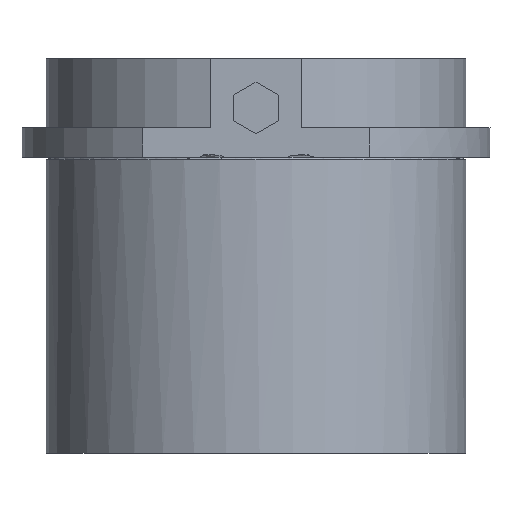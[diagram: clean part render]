
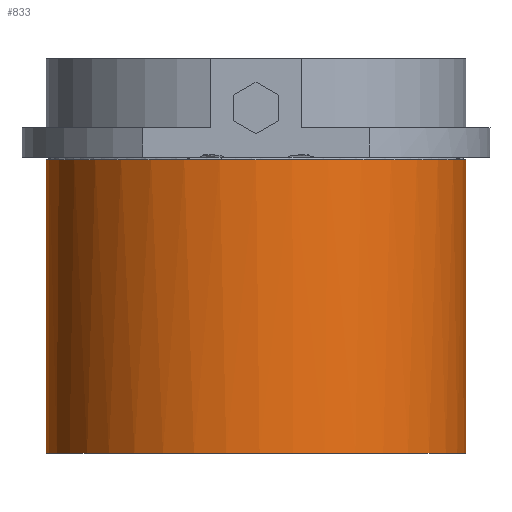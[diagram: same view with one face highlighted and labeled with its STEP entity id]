
A CAD part, front view. The second image highlights one B-rep face of the part: STEP entity #833.
In plain terms, the highlighted cylindrical face has radius 42.5 mm (diameter 85 mm), a partial arc.
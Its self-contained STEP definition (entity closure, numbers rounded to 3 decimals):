
#465=CARTESIAN_POINT('Control Point',(-42.5,0.,-60.)) ;
#466=CARTESIAN_POINT('Control Point',(-42.5,-4.152,-60.)) ;
#467=CARTESIAN_POINT('Control Point',(-41.993,-8.304,-60.)) ;
#468=CARTESIAN_POINT('Control Point',(-40.979,-12.373,-60.)) ;
#469=CARTESIAN_POINT('Control Point',(-37.978,-20.182,-60.)) ;
#470=CARTESIAN_POINT('Control Point',(-33.186,-27.038,-60.)) ;
#471=CARTESIAN_POINT('Control Point',(-30.381,-30.156,-60.)) ;
#472=CARTESIAN_POINT('Control Point',(-24.066,-35.643,-60.)) ;
#473=CARTESIAN_POINT('Control Point',(-16.617,-39.449,-60.)) ;
#474=CARTESIAN_POINT('Control Point',(-12.677,-40.886,-60.)) ;
#475=CARTESIAN_POINT('Control Point',(-4.526,-42.768,-60.)) ;
#476=CARTESIAN_POINT('Control Point',(3.838,-42.634,-60.)) ;
#477=CARTESIAN_POINT('Control Point',(7.992,-42.053,-60.)) ;
#478=CARTESIAN_POINT('Control Point',(16.073,-39.891,-60.)) ;
#479=CARTESIAN_POINT('Control Point',(23.396,-35.847,-60.)) ;
#480=CARTESIAN_POINT('Control Point',(26.791,-33.385,-60.)) ;
#481=CARTESIAN_POINT('Control Point',(32.912,-27.683,-60.)) ;
#482=CARTESIAN_POINT('Control Point',(37.481,-20.676,-60.)) ;
#483=CARTESIAN_POINT('Control Point',(39.325,-16.909,-60.)) ;
#484=CARTESIAN_POINT('Control Point',(41.279,-11.248,-60.)) ;
#485=CARTESIAN_POINT('Control Point',(42.217,-5.37,-60.)) ;
#486=CARTESIAN_POINT('Control Point',(42.406,-3.585,-60.)) ;
#487=CARTESIAN_POINT('Control Point',(42.5,-1.792,-60.)) ;
#488=CARTESIAN_POINT('Control Point',(42.5,0.,-60.)) ;
#489=CARTESIAN_POINT('Vertex',(-42.5,0.,-60.)) ;
#491=CARTESIAN_POINT('Vertex',(42.5,0.,-60.)) ;
#803=CARTESIAN_POINT('Axis2P3D Location',(0.,0.,20.)) ;
#808=CARTESIAN_POINT('Line Origine',(42.5,0.,20.)) ;
#812=CARTESIAN_POINT('Vertex',(42.5,0.,-0.5)) ;
#815=CARTESIAN_POINT('Axis2P3D Location',(0.,0.,-0.5)) ;
#819=CARTESIAN_POINT('Vertex',(-42.5,0.,-0.5)) ;
#822=CARTESIAN_POINT('Line Origine',(-42.5,0.,20.)) ;
#804=DIRECTION('Axis2P3D Direction',(0.,0.,-1.)) ;
#805=DIRECTION('Axis2P3D XDirection',(1.,0.,0.)) ;
#809=DIRECTION('Vector Direction',(0.,0.,-1.)) ;
#816=DIRECTION('Axis2P3D Direction',(0.,0.,-1.)) ;
#823=DIRECTION('Vector Direction',(0.,0.,-1.)) ;
#806=AXIS2_PLACEMENT_3D('Cylinder Axis2P3D',#803,#804,#805) ;
#817=AXIS2_PLACEMENT_3D('Circle Axis2P3D',#815,#816,$) ;
#828=ORIENTED_EDGE('',*,*,#814,.T.) ;
#829=ORIENTED_EDGE('',*,*,#821,.F.) ;
#830=ORIENTED_EDGE('',*,*,#826,.T.) ;
#831=ORIENTED_EDGE('',*,*,#493,.T.) ;
#810=VECTOR('Line Direction',#809,1.) ;
#824=VECTOR('Line Direction',#823,1.) ;
#833=ADVANCED_FACE('740-60',(#832),#807,.T.) ;
#464=B_SPLINE_CURVE_WITH_KNOTS('',5,(#465,#466,#467,#468,#469,#470,#471,#472,#473,#474,#475,#476,#477,#478,#479,#480,#481,#482,#483,#484,#485,#486,#487,#488),.UNSPECIFIED.,.F.,.U.,(6,3,3,3,3,3,3,6),(0.,29.358,58.716,88.073,117.431,146.789,176.147,188.821),.UNSPECIFIED.) ;
#818=CIRCLE('generated circle',#817,42.5) ;
#807=CYLINDRICAL_SURFACE('generated cylinder',#806,42.5) ;
#493=EDGE_CURVE('',#490,#492,#464,.T.) ;
#814=EDGE_CURVE('',#492,#813,#811,.F.) ;
#821=EDGE_CURVE('',#820,#813,#818,.F.) ;
#826=EDGE_CURVE('',#820,#490,#825,.T.) ;
#827=EDGE_LOOP('',(#828,#829,#830,#831)) ;
#832=FACE_OUTER_BOUND('',#827,.T.) ;
#811=LINE('Line',#808,#810) ;
#825=LINE('Line',#822,#824) ;
#490=VERTEX_POINT('',#489) ;
#492=VERTEX_POINT('',#491) ;
#813=VERTEX_POINT('',#812) ;
#820=VERTEX_POINT('',#819) ;
